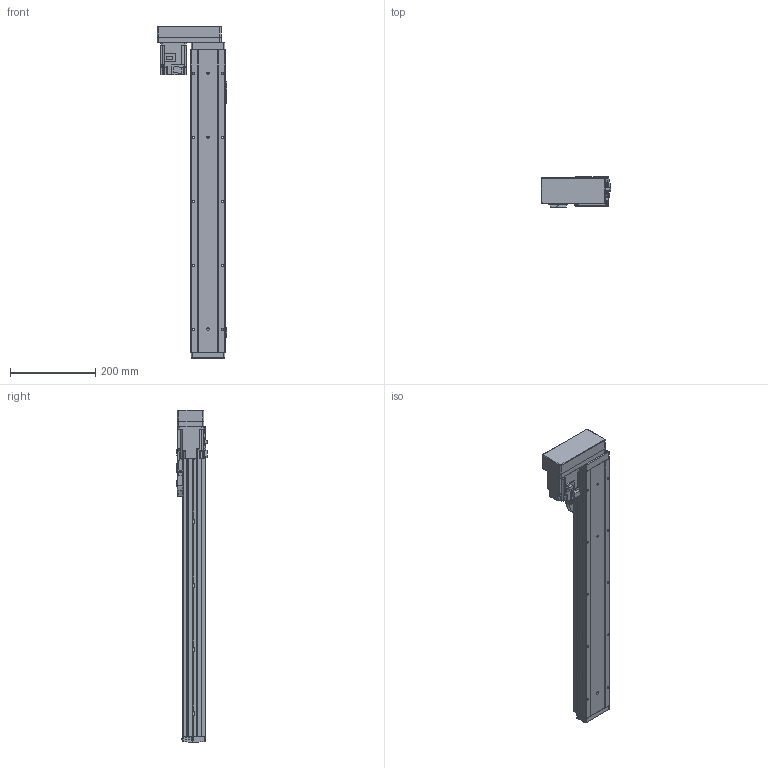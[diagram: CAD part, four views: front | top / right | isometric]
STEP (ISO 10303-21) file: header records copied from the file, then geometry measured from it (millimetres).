
FILE_DESCRIPTION (( 'STEP AP214' ), '1' );
FILE_NAME ('GSH8-550-BR-M20-1.step', '2025-01-07T06:10:37', ( '' ), ( '' ), 'SwSTEP 2.0', 'SolidWorks 2012', '' );
FILE_SCHEMA (( 'AUTOMOTIVE_DESIGN' ));
Length unit declared in the file: millimetre
Products named in the file (5): GSH8-BL-008; GSH8-GY-004; GSH8-BL-011-550-M20; HG-KR23_200W_Motor; GSH8-550-BR-M20-1
Assembly tree (4 placements, depth 2):
  GSH8-550-BR-M20-1
    GSH8-BL-011-550-M20
    GSH8-GY-004
    GSH8-BL-008
    HG-KR23_200W_Motor
Bounding box: 163 x 71.3 x 778.2 mm (x, y, z)
Volume: 2015059.4 mm3; surface area: 489561.6 mm2
Topology: 4 solids, 8 shells, 1112 faces, 2912 edges, 1873 vertices
Faces by surface type: plane 630, cylinder 386, torus 42, cone 26, bspline 24, sphere 4
Entity records: 44196 total; most frequent: CARTESIAN_POINT 10498, DIRECTION 5912, ORIENTED_EDGE 5808, EDGE_CURVE 2904, AXIS2_PLACEMENT_3D 1991, LINE 1930, VECTOR 1930, VERTEX_POINT 1869
